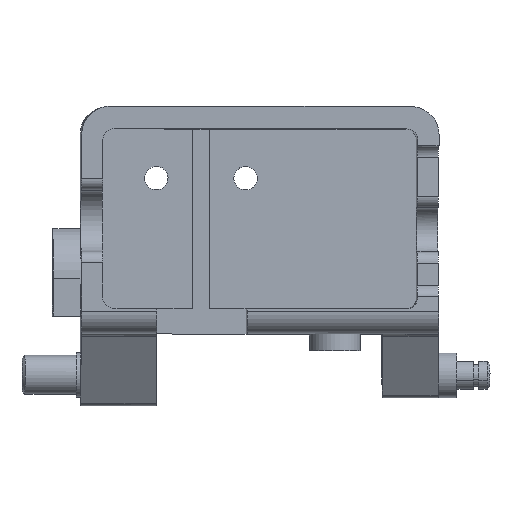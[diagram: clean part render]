
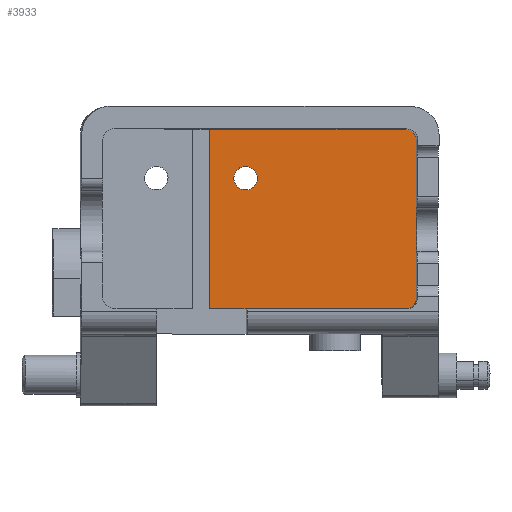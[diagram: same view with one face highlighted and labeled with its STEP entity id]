
A CAD part, top view. The second image highlights one B-rep face of the part: STEP entity #3933.
In plain terms, the highlighted planar face has unit normal (0.007, 0, 1).
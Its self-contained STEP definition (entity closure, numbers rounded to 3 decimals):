
#1474=CARTESIAN_POINT('Vertex',(-192.779,-899.669,260.207)) ;
#1477=CARTESIAN_POINT('Line Origine',(-175.229,-899.689,260.086)) ;
#1481=CARTESIAN_POINT('Vertex',(-157.68,-899.709,259.966)) ;
#1605=CARTESIAN_POINT('Axis2P3D Location',(-157.682,-901.709,259.966)) ;
#1609=CARTESIAN_POINT('Vertex',(-155.682,-901.711,259.953)) ;
#1633=CARTESIAN_POINT('Vertex',(-155.714,-929.931,259.955)) ;
#1799=CARTESIAN_POINT('Line Origine',(-155.698,-915.821,259.954)) ;
#3261=CARTESIAN_POINT('Vertex',(-186.263,-906.377,260.162)) ;
#3264=CARTESIAN_POINT('Axis2P3D Location',(-186.289,-908.477,260.163)) ;
#3268=CARTESIAN_POINT('Vertex',(-186.316,-910.577,260.163)) ;
#3283=CARTESIAN_POINT('Axis2P3D Location',(-186.289,-908.477,260.163)) ;
#3673=CARTESIAN_POINT('Vertex',(-186.215,-931.897,260.164)) ;
#3687=CARTESIAN_POINT('Vertex',(-157.716,-931.929,259.969)) ;
#3690=CARTESIAN_POINT('Line Origine',(-171.966,-931.913,260.066)) ;
#3850=CARTESIAN_POINT('Line Origine',(-189.515,-931.893,260.187)) ;
#3854=CARTESIAN_POINT('Vertex',(-192.815,-931.889,260.209)) ;
#3857=CARTESIAN_POINT('Line Origine',(-192.797,-915.779,260.208)) ;
#3896=CARTESIAN_POINT('Axis2P3D Location',(-182.372,-893.181,260.135)) ;
#3915=CARTESIAN_POINT('Axis2P3D Location',(-157.714,-929.929,259.969)) ;
#1478=DIRECTION('Vector Direction',(1.,-0.001,-0.007)) ;
#1606=DIRECTION('Axis2P3D Direction',(-0.007,0.,-1.)) ;
#1800=DIRECTION('Vector Direction',(-0.001,-1.,0.)) ;
#3265=DIRECTION('Axis2P3D Direction',(0.007,0.,1.)) ;
#3284=DIRECTION('Axis2P3D Direction',(0.007,0.,1.)) ;
#3691=DIRECTION('Vector Direction',(1.,-0.001,-0.007)) ;
#3851=DIRECTION('Vector Direction',(1.,-0.001,-0.007)) ;
#3858=DIRECTION('Vector Direction',(0.001,1.,0.)) ;
#3897=DIRECTION('Axis2P3D Direction',(-0.007,0.,-1.)) ;
#3898=DIRECTION('Axis2P3D XDirection',(-0.001,-1.,0.)) ;
#3916=DIRECTION('Axis2P3D Direction',(-0.007,0.,-1.)) ;
#1607=AXIS2_PLACEMENT_3D('Circle Axis2P3D',#1605,#1606,$) ;
#3266=AXIS2_PLACEMENT_3D('Circle Axis2P3D',#3264,#3265,$) ;
#3285=AXIS2_PLACEMENT_3D('Circle Axis2P3D',#3283,#3284,$) ;
#3899=AXIS2_PLACEMENT_3D('Plane Axis2P3D',#3896,#3897,#3898) ;
#3917=AXIS2_PLACEMENT_3D('Circle Axis2P3D',#3915,#3916,$) ;
#3921=ORIENTED_EDGE('',*,*,#3919,.T.) ;
#3922=ORIENTED_EDGE('',*,*,#1803,.F.) ;
#3923=ORIENTED_EDGE('',*,*,#1611,.T.) ;
#3924=ORIENTED_EDGE('',*,*,#1483,.F.) ;
#3925=ORIENTED_EDGE('',*,*,#3861,.F.) ;
#3926=ORIENTED_EDGE('',*,*,#3856,.F.) ;
#3927=ORIENTED_EDGE('',*,*,#3694,.F.) ;
#3930=ORIENTED_EDGE('',*,*,#3287,.F.) ;
#3931=ORIENTED_EDGE('',*,*,#3270,.F.) ;
#3932=FACE_BOUND('',#3929,.T.) ;
#1479=VECTOR('Line Direction',#1478,1.) ;
#1801=VECTOR('Line Direction',#1800,1.) ;
#3692=VECTOR('Line Direction',#3691,1.) ;
#3852=VECTOR('Line Direction',#3851,1.) ;
#3859=VECTOR('Line Direction',#3858,1.) ;
#3933=ADVANCED_FACE('\X2\96F64EF651E04F554F53\X0\',(#3928,#3932),#3900,.F.) ;
#1608=CIRCLE('generated circle',#1607,2.) ;
#3267=CIRCLE('generated circle',#3266,2.1) ;
#3286=CIRCLE('generated circle',#3285,2.1) ;
#3918=CIRCLE('generated circle',#3917,2.) ;
#1483=EDGE_CURVE('',#1475,#1482,#1480,.T.) ;
#1611=EDGE_CURVE('',#1610,#1482,#1608,.F.) ;
#1803=EDGE_CURVE('',#1610,#1634,#1802,.T.) ;
#3270=EDGE_CURVE('',#3262,#3269,#3267,.T.) ;
#3287=EDGE_CURVE('',#3269,#3262,#3286,.T.) ;
#3694=EDGE_CURVE('',#3688,#3674,#3693,.F.) ;
#3856=EDGE_CURVE('',#3674,#3855,#3853,.F.) ;
#3861=EDGE_CURVE('',#3855,#1475,#3860,.T.) ;
#3919=EDGE_CURVE('',#3688,#1634,#3918,.F.) ;
#3920=EDGE_LOOP('',(#3921,#3922,#3923,#3924,#3925,#3926,#3927)) ;
#3929=EDGE_LOOP('',(#3930,#3931)) ;
#3928=FACE_OUTER_BOUND('',#3920,.T.) ;
#1480=LINE('Line',#1477,#1479) ;
#1802=LINE('Line',#1799,#1801) ;
#3693=LINE('Line',#3690,#3692) ;
#3853=LINE('Line',#3850,#3852) ;
#3860=LINE('Line',#3857,#3859) ;
#3900=PLANE('',#3899) ;
#1475=VERTEX_POINT('',#1474) ;
#1482=VERTEX_POINT('',#1481) ;
#1610=VERTEX_POINT('',#1609) ;
#1634=VERTEX_POINT('',#1633) ;
#3262=VERTEX_POINT('',#3261) ;
#3269=VERTEX_POINT('',#3268) ;
#3674=VERTEX_POINT('',#3673) ;
#3688=VERTEX_POINT('',#3687) ;
#3855=VERTEX_POINT('',#3854) ;
